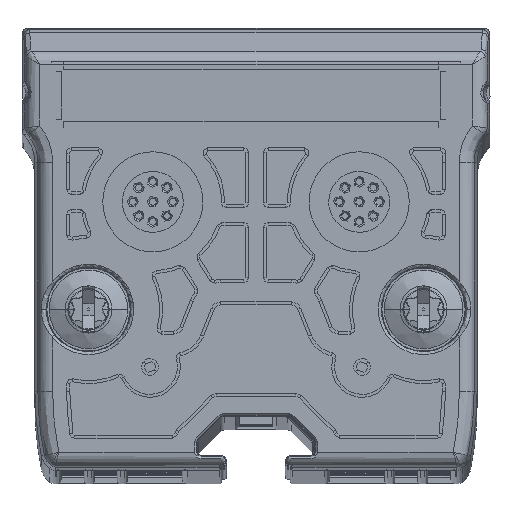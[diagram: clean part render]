
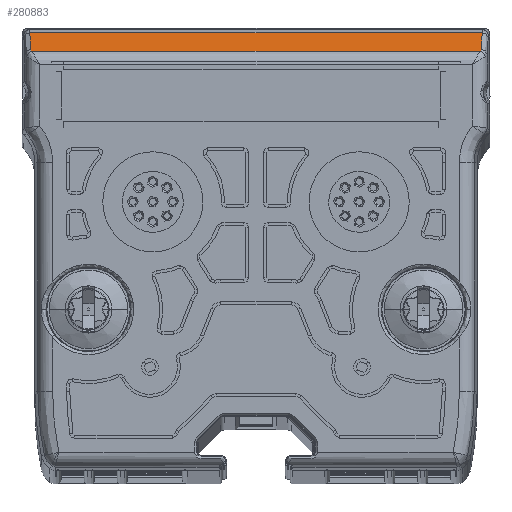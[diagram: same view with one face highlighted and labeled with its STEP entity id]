
A CAD part, top view. The second image highlights one B-rep face of the part: STEP entity #280883.
In plain terms, the highlighted planar face has unit normal (0, 0.891, 0.454).
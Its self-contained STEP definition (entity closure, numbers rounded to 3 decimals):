
#6217 = CARTESIAN_POINT ( 'NONE',  ( -23.029, 22.024, 256.585 ) ) ;
#6430 = DIRECTION ( 'NONE',  ( 0., -0.891, -0.454 ) ) ;
#15374 = VECTOR ( 'NONE', #62911, 1000. ) ;
#19364 = CARTESIAN_POINT ( 'NONE',  ( 22.911, 20.309, 259.954 ) ) ;
#21485 = LINE ( 'NONE', #246552, #192017 ) ;
#27170 = DIRECTION ( 'NONE',  ( -1., 0., 0. ) ) ;
#29723 = B_SPLINE_CURVE_WITH_KNOTS ( 'NONE', 3,
 ( #58725, #103411, #125736, #281147 ),
 .UNSPECIFIED., .F., .F.,
 ( 4, 4 ),
 ( 0., 1. ),
 .UNSPECIFIED. ) ;
#40495 = CARTESIAN_POINT ( 'NONE',  ( 23.029, 22.024, 256.585 ) ) ;
#40715 = VERTEX_POINT ( 'NONE', #172609 ) ;
#49679 = CARTESIAN_POINT ( 'NONE',  ( -85.73, 20.117, 260.331 ) ) ;
#50455 = CARTESIAN_POINT ( 'NONE',  ( 23.029, 22.024, 256.585 ) ) ;
#51070 = VERTEX_POINT ( 'NONE', #186937 ) ;
#52443 = VECTOR ( 'NONE', #73517, 1000. ) ;
#55100 = EDGE_LOOP ( 'NONE', ( #150499, #165839, #156304, #80283, #63763, #72632 ) ) ;
#57525 = VERTEX_POINT ( 'NONE', #171866 ) ;
#58725 = CARTESIAN_POINT ( 'NONE',  ( -22.814, 20.117, 260.331 ) ) ;
#62911 = DIRECTION ( 'NONE',  ( -0.031, -0.453, 0.891 ) ) ;
#63763 = ORIENTED_EDGE ( 'NONE', *, *, #212189, .F. ) ;
#64104 = VERTEX_POINT ( 'NONE', #268845 ) ;
#64185 = CARTESIAN_POINT ( 'NONE',  ( 22.814, 20.117, 260.331 ) ) ;
#72632 = ORIENTED_EDGE ( 'NONE', *, *, #259734, .F. ) ;
#72735 = EDGE_CURVE ( 'NONE', #57525, #64104, #29723, .T. ) ;
#73517 = DIRECTION ( 'NONE',  ( -0.031, 0.453, -0.891 ) ) ;
#80283 = ORIENTED_EDGE ( 'NONE', *, *, #72735, .F. ) ;
#91182 = EDGE_CURVE ( 'NONE', #64104, #40715, #281863, .T. ) ;
#103411 = CARTESIAN_POINT ( 'NONE',  ( -22.874, 20.177, 260.213 ) ) ;
#117425 = PLANE ( 'NONE',  #149972 ) ;
#125736 = CARTESIAN_POINT ( 'NONE',  ( -22.907, 20.243, 260.084 ) ) ;
#128624 = EDGE_CURVE ( 'NONE', #40715, #142213, #21485, .T. ) ;
#140278 = VERTEX_POINT ( 'NONE', #239072 ) ;
#142213 = VERTEX_POINT ( 'NONE', #50455 ) ;
#149972 = AXIS2_PLACEMENT_3D ( 'NONE', #272875, #6430, #162210 ) ;
#150387 = FACE_OUTER_BOUND ( 'NONE', #55100, .T. ) ;
#150499 = ORIENTED_EDGE ( 'NONE', *, *, #248303, .F. ) ;
#156304 = ORIENTED_EDGE ( 'NONE', *, *, #91182, .F. ) ;
#162210 = DIRECTION ( 'NONE',  ( 0., 0.454, -0.891 ) ) ;
#165839 = ORIENTED_EDGE ( 'NONE', *, *, #128624, .F. ) ;
#171866 = CARTESIAN_POINT ( 'NONE',  ( -22.814, 20.117, 260.331 ) ) ;
#172609 = CARTESIAN_POINT ( 'NONE',  ( -23.029, 22.024, 256.585 ) ) ;
#174679 = LINE ( 'NONE', #49679, #278757 ) ;
#175075 = CARTESIAN_POINT ( 'NONE',  ( 22.907, 20.243, 260.084 ) ) ;
#186937 = CARTESIAN_POINT ( 'NONE',  ( 22.814, 20.117, 260.331 ) ) ;
#192017 = VECTOR ( 'NONE', #268822, 1000. ) ;
#192949 = LINE ( 'NONE', #40495, #15374 ) ;
#197410 = CARTESIAN_POINT ( 'NONE',  ( 22.874, 20.177, 260.213 ) ) ;
#212189 = EDGE_CURVE ( 'NONE', #51070, #57525, #174679, .T. ) ;
#239072 = CARTESIAN_POINT ( 'NONE',  ( 22.911, 20.309, 259.954 ) ) ;
#246552 = CARTESIAN_POINT ( 'NONE',  ( 11.908, 22.024, 256.585 ) ) ;
#248303 = EDGE_CURVE ( 'NONE', #142213, #140278, #192949, .T. ) ;
#259734 = EDGE_CURVE ( 'NONE', #140278, #51070, #273841, .T. ) ;
#268822 = DIRECTION ( 'NONE',  ( 1., 0., 0. ) ) ;
#268845 = CARTESIAN_POINT ( 'NONE',  ( -22.911, 20.309, 259.954 ) ) ;
#272875 = CARTESIAN_POINT ( 'NONE',  ( 11.908, 21.1, 258.4 ) ) ;
#273841 = B_SPLINE_CURVE_WITH_KNOTS ( 'NONE', 3,
 ( #19364, #175075, #197410, #64185 ),
 .UNSPECIFIED., .F., .F.,
 ( 4, 4 ),
 ( 0., 1. ),
 .UNSPECIFIED. ) ;
#278757 = VECTOR ( 'NONE', #27170, 1000. ) ;
#280883 = ADVANCED_FACE ( 'NONE', ( #150387 ), #117425, .F. ) ;
#281147 = CARTESIAN_POINT ( 'NONE',  ( -22.911, 20.309, 259.954 ) ) ;
#281863 = LINE ( 'NONE', #6217, #52443 ) ;
